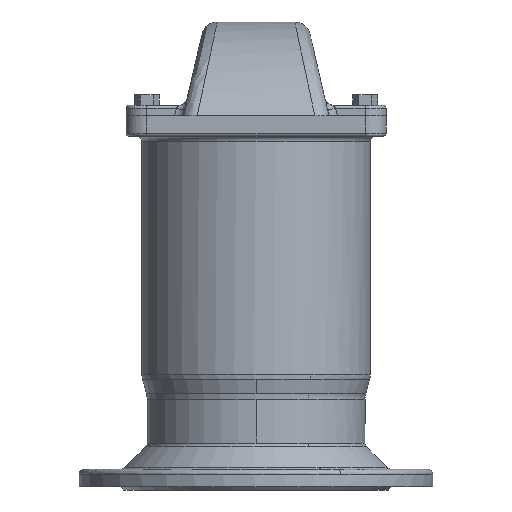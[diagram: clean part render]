
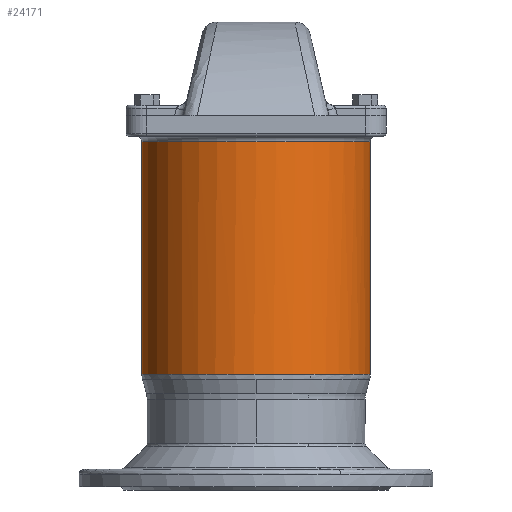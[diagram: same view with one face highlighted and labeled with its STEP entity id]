
A CAD part, front view. The second image highlights one B-rep face of the part: STEP entity #24171.
In plain terms, the highlighted cylindrical face has radius 110 mm (diameter 220 mm), a partial arc.
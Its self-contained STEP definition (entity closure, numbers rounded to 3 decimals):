
#153 = CARTESIAN_POINT ( 'NONE',  ( 0., 0., 111.293 ) ) ;
#305 = CARTESIAN_POINT ( 'NONE',  ( -110., 0., 111.293 ) ) ;
#1392 = EDGE_CURVE ( 'NONE', #11907, #14560, #2319, .T. ) ;
#2210 = AXIS2_PLACEMENT_3D ( 'NONE', #153, #16147, #2458 ) ;
#2319 = CIRCLE ( 'NONE', #16786, 110. ) ;
#2458 = DIRECTION ( 'NONE',  ( 1., 0., 0. ) ) ;
#2933 = CARTESIAN_POINT ( 'NONE',  ( -110., 0., 111.293 ) ) ;
#3640 = CARTESIAN_POINT ( 'NONE',  ( 110., 0., 111.293 ) ) ;
#4035 = DIRECTION ( 'NONE',  ( 0., 0., 1. ) ) ;
#4736 = VECTOR ( 'NONE', #17320, 1000. ) ;
#5104 = CARTESIAN_POINT ( 'NONE',  ( 110., 0., 335. ) ) ;
#6090 = CARTESIAN_POINT ( 'NONE',  ( 110., 0., 111.293 ) ) ;
#6674 = VERTEX_POINT ( 'NONE', #6090 ) ;
#9244 = CARTESIAN_POINT ( 'NONE',  ( 0., 0., 111.293 ) ) ;
#9381 = EDGE_CURVE ( 'NONE', #27727, #6674, #22861, .T. ) ;
#9387 = ORIENTED_EDGE ( 'NONE', *, *, #9381, .T. ) ;
#11094 = EDGE_CURVE ( 'NONE', #25274, #27727, #11490, .T. ) ;
#11490 = CIRCLE ( 'NONE', #16782, 110. ) ;
#11907 = VERTEX_POINT ( 'NONE', #24335 ) ;
#13127 = ORIENTED_EDGE ( 'NONE', *, *, #1392, .F. ) ;
#14339 = CARTESIAN_POINT ( 'NONE',  ( 52.737, -96.534, 111.293 ) ) ;
#14560 = VERTEX_POINT ( 'NONE', #5104 ) ;
#15079 = LINE ( 'NONE', #2933, #27179 ) ;
#15918 = DIRECTION ( 'NONE',  ( 1., 0., 0. ) ) ;
#16020 = DIRECTION ( 'NONE',  ( 0., 0., 1. ) ) ;
#16117 = CARTESIAN_POINT ( 'NONE',  ( 0., 0., 335. ) ) ;
#16147 = DIRECTION ( 'NONE',  ( 0., 0., 1. ) ) ;
#16365 = EDGE_CURVE ( 'NONE', #25274, #11907, #15079, .T. ) ;
#16782 = AXIS2_PLACEMENT_3D ( 'NONE', #17710, #4035, #20016 ) ;
#16786 = AXIS2_PLACEMENT_3D ( 'NONE', #16117, #16020, #15918 ) ;
#17320 = DIRECTION ( 'NONE',  ( 0., 0., 1. ) ) ;
#17412 = AXIS2_PLACEMENT_3D ( 'NONE', #9244, #22865, #25161 ) ;
#17710 = CARTESIAN_POINT ( 'NONE',  ( 0., 0., 111.293 ) ) ;
#19554 = EDGE_LOOP ( 'NONE', ( #22410, #24838, #9387, #24272, #13127 ) ) ;
#20016 = DIRECTION ( 'NONE',  ( 1., 0., 0. ) ) ;
#22410 = ORIENTED_EDGE ( 'NONE', *, *, #16365, .F. ) ;
#22861 = CIRCLE ( 'NONE', #2210, 110. ) ;
#22865 = DIRECTION ( 'NONE',  ( 0., 0., 1. ) ) ;
#23928 = EDGE_CURVE ( 'NONE', #6674, #14560, #28253, .T. ) ;
#24171 = ADVANCED_FACE ( 'NONE', ( #26111 ), #25415, .T. ) ;
#24272 = ORIENTED_EDGE ( 'NONE', *, *, #23928, .T. ) ;
#24335 = CARTESIAN_POINT ( 'NONE',  ( -110., 0., 335. ) ) ;
#24838 = ORIENTED_EDGE ( 'NONE', *, *, #11094, .T. ) ;
#25161 = DIRECTION ( 'NONE',  ( 1., 0., 0. ) ) ;
#25274 = VERTEX_POINT ( 'NONE', #305 ) ;
#25415 = CYLINDRICAL_SURFACE ( 'NONE', #17412, 110. ) ;
#26047 = DIRECTION ( 'NONE',  ( 0., 0., 1. ) ) ;
#26111 = FACE_OUTER_BOUND ( 'NONE', #19554, .T. ) ;
#27179 = VECTOR ( 'NONE', #26047, 1000. ) ;
#27727 = VERTEX_POINT ( 'NONE', #14339 ) ;
#28253 = LINE ( 'NONE', #3640, #4736 ) ;
